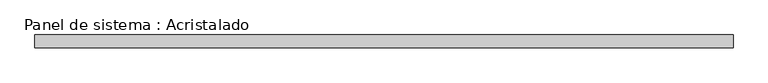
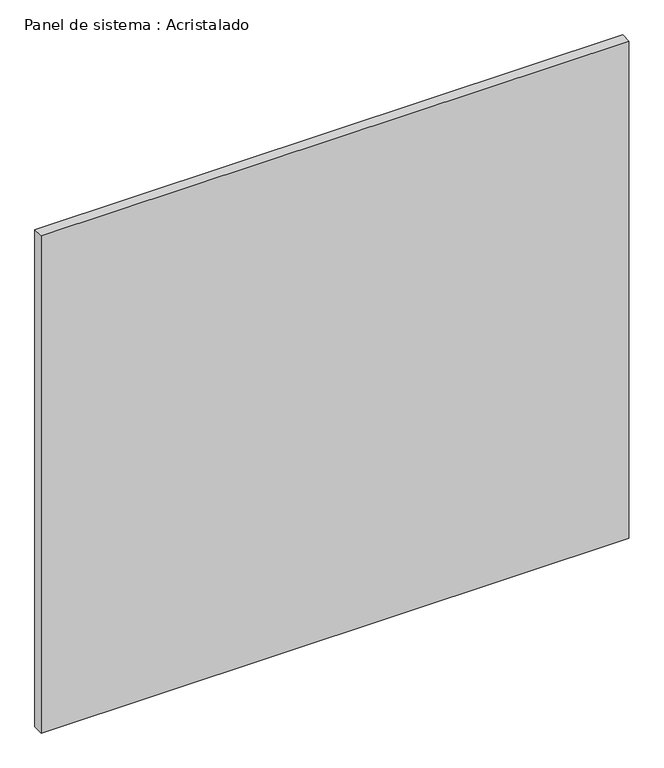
"""IFC4 building model written with IfcOpenShell, lengths in millimetres: plate geometry, Panel de sistema : Acristalado."""

import ifcopenshell
import ifcopenshell.guid

model = None  # the IFC model being written
_history = None  # IfcOwnerHistory: only IFC2X3 demands one
_inside = {}  # id of a spatial element -> (the spatial element, [elements in it])
_under = {}  # id of a project, library or spatial element -> (it, [spatial elements below it])
_declared = {}  # id of a project -> (the project, [libraries it declares])
_typed = {}  # id of a type object -> (the type object, [elements of that type])
_made_of = {}  # id of a material, layer set ... -> (it, [elements and type objects made of it])


def new_model(schema):
    """Start an empty IFC model of exactly this schema.

    Asked for "IFC4X3", IfcOpenShell would pick the latest addendum, in which some entities
    have other attributes; the version numbers below select the first issue.
    IFC2X3 requires an IfcOwnerHistory on every rooted entity: one is made here for all.
    """
    global model, _history
    if schema == "IFC4X3":
        model = ifcopenshell.file(schema_version=(4, 3, 0, 0))
    else:
        model = ifcopenshell.file(schema=schema)
    _inside.clear()
    _under.clear()
    _declared.clear()
    _typed.clear()
    _made_of.clear()
    _history = None
    if model.schema == "IFC2X3":
        org = make("IfcOrganization", Name="unknown")
        user = make(
            "IfcPersonAndOrganization",
            ThePerson=make("IfcPerson", FamilyName="unknown"),
            TheOrganization=org,
        )
        app = make(
            "IfcApplication",
            ApplicationDeveloper=org,
            Version="unknown",
            ApplicationFullName="unknown",
            ApplicationIdentifier="unknown",
        )
        _history = make(
            "IfcOwnerHistory",
            OwningUser=user,
            OwningApplication=app,
            ChangeAction="ADDED",
            CreationDate=0,
        )
    return model


def make(cls, **values):
    """One entity of the class cls with the attributes given. An attribute that is None is left unset."""
    return model.create_entity(
        cls, **{name: value for name, value in values.items() if value is not None}
    )


def rooted(cls, **values):
    """An entity with a GlobalId (a new one), such as an element, a storey or a relation."""
    return make(cls, GlobalId=ifcopenshell.guid.new(), OwnerHistory=_history, **values)


def si_unit(unit_type, name, prefix=None):
    """IfcSIUnit, for example si_unit("LENGTHUNIT", "METRE", prefix="MILLI")."""
    return make("IfcSIUnit", UnitType=unit_type, Prefix=prefix, Name=name)


def assignment(units):
    """IfcUnitAssignment: the units of a project."""
    return None if units is None else make("IfcUnitAssignment", Units=units)


def point(xyz):
    """IfcCartesianPoint."""
    return None if xyz is None else make("IfcCartesianPoint", Coordinates=xyz)


def direction(xyz):
    """IfcDirection."""
    return None if xyz is None else make("IfcDirection", DirectionRatios=xyz)


def frame(location, z_axis=None, x_axis=None):
    """IfcAxis2Placement3D, a coordinate frame: its origin and axes. An axis left out is left unset."""
    return make(
        "IfcAxis2Placement3D",
        Location=point(location),
        Axis=direction(z_axis),
        RefDirection=direction(x_axis),
    )


def origin():
    """The frame at (0, 0, 0) with its axes left unset."""
    return frame((0.0, 0.0, 0.0))


def origin_with_axes():
    """The frame at (0, 0, 0) with the z axis (0, 0, 1) and the x axis (1, 0, 0) written out."""
    return frame((0.0, 0.0, 0.0), z_axis=(0.0, 0.0, 1.0), x_axis=(1.0, 0.0, 0.0))


def place(relative_to, where):
    """IfcLocalPlacement: puts the frame where relative to a parent placement (None: the world)."""
    return make(
        "IfcLocalPlacement", PlacementRelTo=relative_to, RelativePlacement=where
    )


def context(
    kind, dimensions, precision=None, world=None, true_north=None, identifier=None
):
    """IfcGeometricRepresentationContext, for example the 3D "Model" context."""
    return make(
        "IfcGeometricRepresentationContext",
        ContextIdentifier=identifier,
        ContextType=kind,
        CoordinateSpaceDimension=dimensions,
        Precision=precision,
        WorldCoordinateSystem=world,
        TrueNorth=true_north,
    )


def project(units=None, contexts=None):
    """IfcProject with its units and contexts."""
    return rooted(
        "IfcProject",
        Name="project",
        RepresentationContexts=contexts,
        UnitsInContext=assignment(units),
    )


def spatial(cls, under=None, at=None, **own):
    """A site, building, storey or space (cls), placed at a placement, below another one or the project."""
    s = rooted(cls, ObjectPlacement=at, **own)
    if under is not None:
        _under.setdefault(under.id(), (under, []))[1].append(s)
    return s


def polyline(points):
    """IfcPolyline through the points."""
    return make("IfcPolyline", Points=[point(p) for p in points])


def outline(outer, holes=None, kind="AREA"):
    """IfcArbitraryClosedProfileDef: a profile drawn as a closed curve; with holes, ...WithVoids."""
    if holes is None:
        return make("IfcArbitraryClosedProfileDef", ProfileType=kind, OuterCurve=outer)
    return make(
        "IfcArbitraryProfileDefWithVoids",
        ProfileType=kind,
        OuterCurve=outer,
        InnerCurves=holes,
    )


def extrude(swept, where, along, depth):
    """IfcExtrudedAreaSolid: the profile swept, set in the frame where, extruded along a direction by depth."""
    return make(
        "IfcExtrudedAreaSolid",
        SweptArea=swept,
        Position=where,
        ExtrudedDirection=direction(along),
        Depth=depth,
    )


def shape(context_of_items, identifier, shape_type, items):
    """IfcShapeRepresentation: the items that make up one representation, for example the "Body"."""
    return make(
        "IfcShapeRepresentation",
        ContextOfItems=context_of_items,
        RepresentationIdentifier=identifier,
        RepresentationType=shape_type,
        Items=items,
    )


def source(mapping_origin, context_of_items, identifier, shape_type, items):
    """IfcRepresentationMap: a shape defined once, which mapped items show again and again."""
    return make(
        "IfcRepresentationMap",
        MappingOrigin=mapping_origin,
        MappedRepresentation=shape(context_of_items, identifier, shape_type, items),
    )


def transform(
    local_origin,
    x_axis=None,
    y_axis=None,
    z_axis=None,
    scale=None,
    scale2=None,
    scale3=None,
    uniform=True,
):
    """IfcCartesianTransformationOperator3D, or its non-uniform kind. x_axis, y_axis, z_axis: its Axis1, 2, 3."""
    if uniform:
        return make(
            "IfcCartesianTransformationOperator3D",
            Axis1=direction(x_axis),
            Axis2=direction(y_axis),
            LocalOrigin=point(local_origin),
            Scale=scale,
            Axis3=direction(z_axis),
        )
    return make(
        "IfcCartesianTransformationOperator3DnonUniform",
        Axis1=direction(x_axis),
        Axis2=direction(y_axis),
        LocalOrigin=point(local_origin),
        Scale=scale,
        Axis3=direction(z_axis),
        Scale2=scale2,
        Scale3=scale3,
    )


def mapped(mapping_source, mapping_target):
    """IfcMappedItem: shows the shape of a source again, moved by a transform."""
    return make(
        "IfcMappedItem", MappingSource=mapping_source, MappingTarget=mapping_target
    )


def made_of(thing, what):
    """Note that an element or type object is made of a material, layer set ...; save() writes the relation."""
    if what is not None:
        _made_of.setdefault(what.id(), (what, []))[1].append(thing)
    return thing


def element(
    cls,
    number,
    at=None,
    inside=None,
    cuts=None,
    type_object=None,
    material=None,
    context=None,
    identifier="Body",
    shape_type=None,
    held_by="IfcProductDefinitionShape",
    body=None,
    shapes=None,
    **own,
):
    """One element of the class cls, such as IfcWall. Its Tag is "e" and its number.

    at: its placement. inside: the storey or other place that contains it. cuts: it is an
    opening in that element (IfcRelVoidsElement). A single representation is given by context,
    identifier, shape_type and body (its items); several are given by shapes. held_by: the class
    of the entity that holds the representations. save() writes the other relations.
    """
    e = rooted(cls, Tag="e%d" % number, ObjectPlacement=at, **own)
    if body is not None:
        shapes = [shape(context, identifier, shape_type, body)]
    if shapes is not None:
        e.Representation = make(held_by, Representations=shapes)
    if inside is not None:
        _inside.setdefault(inside.id(), (inside, []))[1].append(e)
    if cuts is not None:
        rooted(
            "IfcRelVoidsElement", RelatingBuildingElement=cuts, RelatedOpeningElement=e
        )
    if type_object is not None:
        _typed.setdefault(type_object.id(), (type_object, []))[1].append(e)
    return made_of(e, material)


def aggregate(whole, parts):
    """IfcRelAggregates: a whole, such as a stair, and the parts it consists of."""
    return rooted("IfcRelAggregates", RelatingObject=whole, RelatedObjects=parts)


def save(model, path):
    """Write the relations noted so far, then the file.

    IfcRelAggregates (storeys below a building ...), IfcRelContainedInSpatialStructure (elements
    in a storey), IfcRelDefinesByType, IfcRelAssociatesMaterial and IfcRelDeclares: one each for
    every whole, place, type object, material and project.
    """
    for whole, parts in _under.values():
        aggregate(whole, parts)
    for where, things in _inside.values():
        rooted(
            "IfcRelContainedInSpatialStructure",
            RelatedElements=things,
            RelatingStructure=where,
        )
    for kind, things in _typed.values():
        rooted("IfcRelDefinesByType", RelatedObjects=things, RelatingType=kind)
    for what, things in _made_of.values():
        rooted("IfcRelAssociatesMaterial", RelatedObjects=things, RelatingMaterial=what)
    for by, libraries in _declared.values():
        rooted("IfcRelDeclares", RelatingContext=by, RelatedDefinitions=libraries)
    model.write(path)


def panel_de_sistema_acristalado_6c90e8a2(model_context):
    return source(origin(), model_context, "Body", "SweptSolid", [
        extrude(outline(polyline([(550.0, -10.0), (-550.0, -10.0), (-550.0, 10.0), (550.0, 10.0), (550.0, -10.0)])), origin_with_axes(), (0.0, 0.0, 1.0), 984.4802187),
    ])


if __name__ == "__main__":
    model = new_model("IFC4")
    model_context = context("Model", 3, world=origin())
    ifc_project = project(units=[si_unit("LENGTHUNIT", "METRE", prefix="MILLI")], contexts=[model_context])
    site = spatial("IfcSite", under=ifc_project)
    building = spatial("IfcBuilding", under=site)
    placement = place(None, origin())
    panel_de_sistema_acristalado_shape = panel_de_sistema_acristalado_6c90e8a2(model_context)
    element("IfcPlate", 1, ObjectType="Panel de sistema : Acristalado", at=placement, inside=building, context=model_context, shape_type="MappedRepresentation", body=[
        mapped(panel_de_sistema_acristalado_shape, transform((0.0, 0.0, 0.0), x_axis=(1.0, 0.0, 0.0), y_axis=(0.0, 1.0, 0.0), z_axis=(0.0, 0.0, 1.0))),
    ])
    save(model, "model.ifc")
